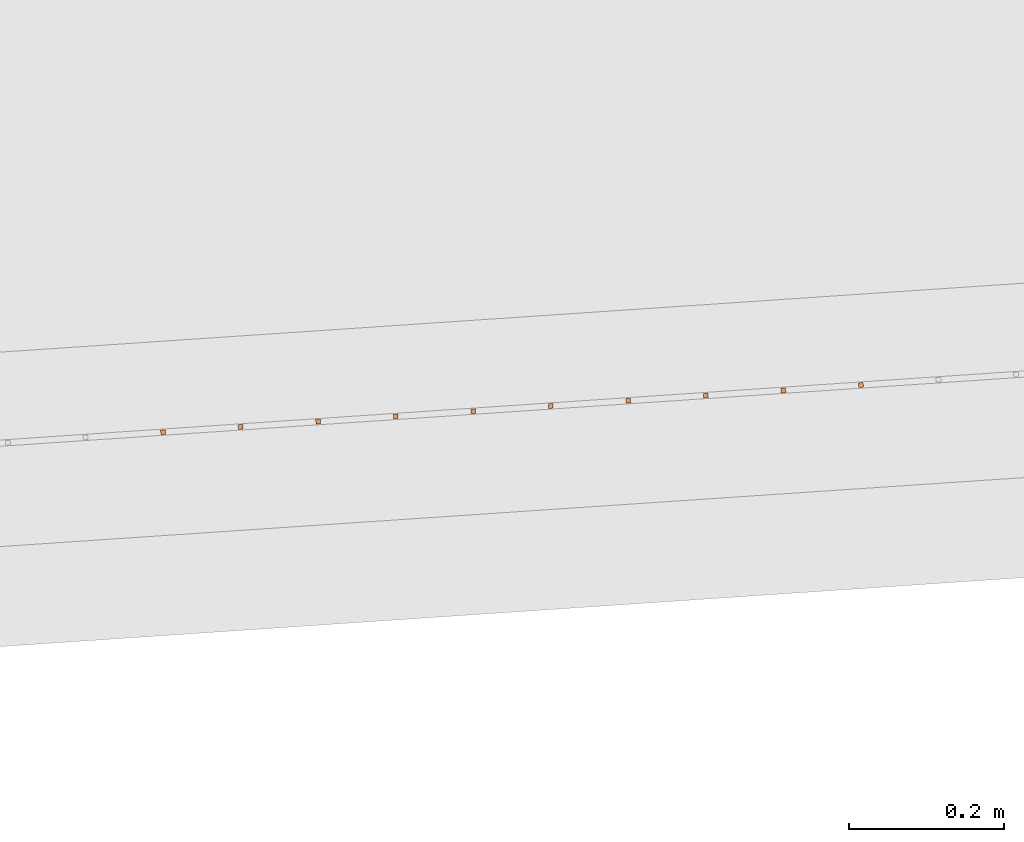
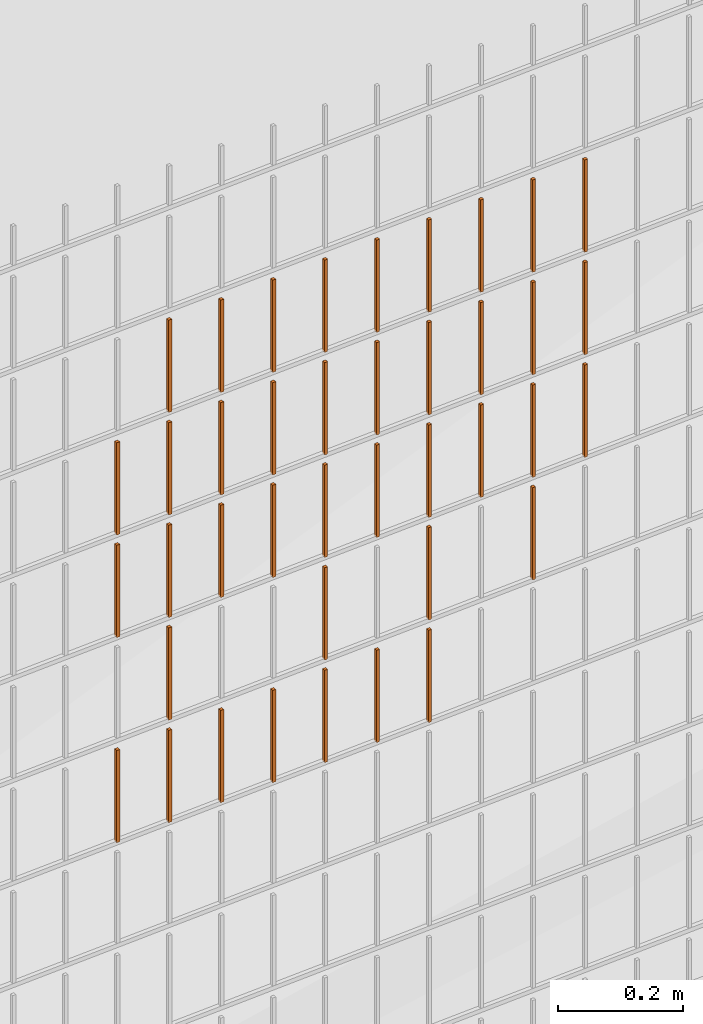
# One storey, part 78 of 1809: 40 proxies, 1 element without a shape of its own.
"""IFC2X3 building model written with IfcOpenShell, lengths in millimetres."""

from ifc_helpers import new_model, entity, si_unit, converted_unit, derived_unit, money_unit, direction, frame, origin_with_axes, place, context, subcontext, project, spatial, faceted_brep, source, transform, mapped, material, type_object, element, aggregate, save


model = new_model("IFC2X3")

# Units and contexts
model_context = context("Model", 3, precision=0.01, world=origin_with_axes(), true_north=direction((0.0, 1.0)))
body_context = subcontext(model_context, "Body", "Model", "MODEL_VIEW")
ifc_project = project(units=[si_unit("LENGTHUNIT", "METRE", prefix="MILLI"), si_unit("AREAUNIT", "SQUARE_METRE"), si_unit("VOLUMEUNIT", "CUBIC_METRE"), converted_unit("PLANEANGLEUNIT", "DEGREE", entity("IfcPlaneAngleMeasure", 0.0174532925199), si_unit("PLANEANGLEUNIT", "RADIAN"), dimensions=[0, 0, 0, 0, 0, 0, 0]), si_unit("SOLIDANGLEUNIT", "STERADIAN"), money_unit("EUR"), converted_unit("TIMEUNIT", "Year", entity("IfcTimeMeasure", 31556926.0), si_unit("TIMEUNIT", "SECOND"), dimensions=[0, 0, 1, 0, 0, 0, 0]), si_unit("MASSUNIT", "GRAM", prefix="KILO"), si_unit("THERMODYNAMICTEMPERATUREUNIT", "DEGREE_CELSIUS"), si_unit("LUMINOUSINTENSITYUNIT", "LUMEN"), si_unit("ENERGYUNIT", "JOULE", prefix="MEGA"), derived_unit("THERMALCONDUCTANCEUNIT", [(si_unit("POWERUNIT", "WATT"), 1), (si_unit("LENGTHUNIT", "METRE"), -1), (si_unit("THERMODYNAMICTEMPERATUREUNIT", "KELVIN"), -1)]), derived_unit("SPECIFICHEATCAPACITYUNIT", [(si_unit("ENERGYUNIT", "JOULE"), 1), (si_unit("MASSUNIT", "GRAM", prefix="KILO"), -1), (si_unit("THERMODYNAMICTEMPERATUREUNIT", "KELVIN"), -1)]), derived_unit("MASSDENSITYUNIT", [(si_unit("MASSUNIT", "GRAM", prefix="KILO"), 1), (si_unit("VOLUMEUNIT", "CUBIC_METRE"), -1)])], contexts=[model_context])

# Site, building, storey
site_placement = place(None, origin_with_axes())
site = spatial("IfcSite", under=ifc_project, at=site_placement, Name="Politse- ja Piirivalveameti ning Päästeameti ühishoone", CompositionType="ELEMENT")
building_placement = place(site_placement, origin_with_axes())
building = spatial("IfcBuilding", under=site, at=building_placement, Name="Politse- ja Piirivalveameti ning Päästeameti ühishoone", CompositionType="ELEMENT")
storey_placement = place(building_placement, origin_with_axes())
storey = spatial("IfcBuildingStorey", under=building, at=storey_placement, Name="Esimene korrus", CompositionType="ELEMENT", Elevation=0.0)

# Proxies
building_element_proxy_type_1 = type_object("IfcBuildingElementProxyType", Name="Railing Type", PredefinedType="NOTDEFINED")
proxy_1_placement = place(storey_placement, frame((89252.001212, -29183.4766571, 203.661247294), z_axis=(0.0, 0.0, 1.0), x_axis=(1.0, 0.0, 0.0)))
proxy_1 = element("IfcBuildingElementProxy", 1, at=proxy_1_placement, inside=storey, type_object=building_element_proxy_type_1, Name="PIIRDEAED")
ifc_material = material(Name="ET-03_Raud")
building_element_proxy_type_2 = type_object("IfcBuildingElementProxyType", Name="IfcBuildingElementProxy", PredefinedType="NOTDEFINED")
shared_shape_1 = source(origin_with_axes(), body_context, "Body", "Brep", [
    faceted_brep([(3.0, 3.0, -0.000752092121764), (-3.0, 3.0, -0.000752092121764), (-3.0, 3.0, 179.99926046), (3.0, 3.0, 179.99926046), (3.0, -3.0, 0.000752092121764), (-3.0, -3.0, 0.000752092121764), (-3.0, -3.0, 180.000764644), (3.0, -3.0, 180.000764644)], [[[0, 1, 2, 3]], [[0, 4, 5, 1]], [[1, 5, 6, 2]], [[3, 2, 6, 7]], [[4, 0, 3, 7]], [[5, 4, 7, 6]]]),
])
proxy_2_placement = place(proxy_1_placement, frame((-103590.641133, -24294.9316332, 801.205307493), z_axis=(0.0, 0.0, 1.0), x_axis=(1.0, 0.0, 0.0)))
proxy_2 = element("IfcBuildingElementProxy", 2, at=proxy_2_placement, type_object=building_element_proxy_type_2, material=ifc_material, Name="BALUSTER - 001", context=body_context, shape_type="MappedRepresentation", body=[
    mapped(shared_shape_1, transform((0.0, 0.0, 0.0), x_axis=(-0.0673926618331, 0.997726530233, 0.0), y_axis=(-0.997726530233, -0.0673926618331, 0.0), z_axis=(0.0, 0.0, 1.0))),
])
proxy_3_placement = place(proxy_1_placement, frame((-103989.731745, -24321.8886979, 801.105028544), z_axis=(0.0, 0.0, 1.0), x_axis=(1.0, 0.0, 0.0)))
proxy_3 = element("IfcBuildingElementProxy", 3, at=proxy_3_placement, type_object=building_element_proxy_type_2, material=ifc_material, Name="BALUSTER - 001", context=body_context, shape_type="MappedRepresentation", body=[
    mapped(shared_shape_1, transform((0.0, 0.0, 0.0), x_axis=(-0.0673926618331, 0.997726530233, 0.0), y_axis=(-0.997726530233, -0.0673926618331, 0.0), z_axis=(0.0, 0.0, 1.0))),
])
proxy_4_placement = place(proxy_1_placement, frame((-103291.323174, -24274.7138346, 1201.28051671), z_axis=(0.0, 0.0, 1.0), x_axis=(1.0, 0.0, 0.0)))
proxy_4 = element("IfcBuildingElementProxy", 4, at=proxy_4_placement, type_object=building_element_proxy_type_2, material=ifc_material, Name="BALUSTER - 001", context=body_context, shape_type="MappedRepresentation", body=[
    mapped(shared_shape_1, transform((0.0, 0.0, 0.0), x_axis=(-0.0673926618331, 0.997726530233, 0.0), y_axis=(-0.997726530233, -0.0673926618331, 0.0), z_axis=(0.0, 0.0, 1.0))),
])
proxy_5_placement = place(proxy_1_placement, frame((-103989.731745, -24321.8886979, 1201.10502854), z_axis=(0.0, 0.0, 1.0), x_axis=(1.0, 0.0, 0.0)))
proxy_5 = element("IfcBuildingElementProxy", 5, at=proxy_5_placement, type_object=building_element_proxy_type_2, material=ifc_material, Name="BALUSTER - 001", context=body_context, shape_type="MappedRepresentation", body=[
    mapped(shared_shape_1, transform((0.0, 0.0, 0.0), x_axis=(-0.0673926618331, 0.997726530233, 0.0), y_axis=(-0.997726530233, -0.0673926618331, 0.0), z_axis=(0.0, 0.0, 1.0))),
])
shared_shape_2 = source(origin_with_axes(), body_context, "Body", "Brep", [
    faceted_brep([(3.0, 3.0, -0.000752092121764), (-3.0, 3.0, -0.000752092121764), (-3.0, 3.0, 179.99926046), (3.0, 3.0, 179.99926046), (3.0, -3.0, 0.000752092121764), (-3.0, -3.0, 0.000752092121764), (-3.0, -3.0, 180.000764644), (3.0, -3.0, 180.000764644)], [[[0, 1, 2, 3]], [[0, 4, 5, 1]], [[1, 5, 6, 2]], [[3, 2, 6, 7]], [[4, 0, 3, 7]], [[5, 4, 7, 6]]]),
])
proxy_6_placement = place(proxy_1_placement, frame((-103291.323174, -24274.7138346, 1401.28051671), z_axis=(0.0, 0.0, 1.0), x_axis=(1.0, 0.0, 0.0)))
proxy_6 = element("IfcBuildingElementProxy", 6, at=proxy_6_placement, type_object=building_element_proxy_type_2, material=ifc_material, Name="BALUSTER - 001", context=body_context, shape_type="MappedRepresentation", body=[
    mapped(shared_shape_2, transform((0.0, 0.0, 0.0), x_axis=(-0.0673926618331, 0.997726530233, 0.0), y_axis=(-0.997726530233, -0.0673926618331, 0.0), z_axis=(0.0, 0.0, 1.0))),
])
proxy_7_placement = place(proxy_1_placement, frame((-103989.731745, -24321.8886979, 1401.10502854), z_axis=(0.0, 0.0, 1.0), x_axis=(1.0, 0.0, 0.0)))
proxy_7 = element("IfcBuildingElementProxy", 7, at=proxy_7_placement, type_object=building_element_proxy_type_2, material=ifc_material, Name="BALUSTER - 001", context=body_context, shape_type="MappedRepresentation", body=[
    mapped(shared_shape_2, transform((0.0, 0.0, 0.0), x_axis=(-0.0673926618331, 0.997726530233, 0.0), y_axis=(-0.997726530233, -0.0673926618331, 0.0), z_axis=(0.0, 0.0, 1.0))),
])
proxy_8_placement = place(proxy_1_placement, frame((-103291.323174, -24274.7138346, 1601.28051671), z_axis=(0.0, 0.0, 1.0), x_axis=(1.0, 0.0, 0.0)))
proxy_8 = element("IfcBuildingElementProxy", 8, at=proxy_8_placement, type_object=building_element_proxy_type_2, material=ifc_material, Name="BALUSTER - 001", context=body_context, shape_type="MappedRepresentation", body=[
    mapped(shared_shape_2, transform((0.0, 0.0, 0.0), x_axis=(-0.0673926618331, 0.997726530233, 0.0), y_axis=(-0.997726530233, -0.0673926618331, 0.0), z_axis=(0.0, 0.0, 1.0))),
])
proxy_9_placement = place(proxy_1_placement, frame((-103989.731745, -24321.8886979, 1601.10502854), z_axis=(0.0, 0.0, 1.0), x_axis=(1.0, 0.0, 0.0)))
proxy_9 = element("IfcBuildingElementProxy", 9, at=proxy_9_placement, type_object=building_element_proxy_type_2, material=ifc_material, Name="BALUSTER - 001", context=body_context, shape_type="MappedRepresentation", body=[
    mapped(shared_shape_2, transform((0.0, 0.0, 0.0), x_axis=(-0.0673926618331, 0.997726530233, 0.0), y_axis=(-0.997726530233, -0.0673926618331, 0.0), z_axis=(0.0, 0.0, 1.0))),
])
shared_shape_3 = source(origin_with_axes(), body_context, "Body", "Brep", [
    faceted_brep([(3.0, 3.0, -0.000752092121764), (-3.0, 3.0, -0.000752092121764), (-3.0, 3.0, 179.99926046), (3.0, 3.0, 179.99926046), (3.0, -3.0, 0.000752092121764), (-3.0, -3.0, 0.000752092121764), (-3.0, -3.0, 180.000764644), (3.0, -3.0, 180.000764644)], [[[0, 1, 2, 3]], [[0, 4, 5, 1]], [[1, 5, 6, 2]], [[3, 2, 6, 7]], [[4, 0, 3, 7]], [[5, 4, 7, 6]]]),
])
proxy_10_placement = place(proxy_1_placement, frame((-103391.095827, -24281.4531008, 1201.25544697), z_axis=(0.0, 0.0, 1.0), x_axis=(1.0, 0.0, 0.0)))
proxy_10 = element("IfcBuildingElementProxy", 10, at=proxy_10_placement, type_object=building_element_proxy_type_2, material=ifc_material, Name="BALUSTER - 001", context=body_context, shape_type="MappedRepresentation", body=[
    mapped(shared_shape_3, transform((0.0, 0.0, 0.0), x_axis=(-0.0673926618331, 0.997726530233, 0.0), y_axis=(-0.997726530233, -0.0673926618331, 0.0), z_axis=(0.0, 0.0, 1.0))),
])
proxy_11_placement = place(proxy_1_placement, frame((-103889.959092, -24315.1494317, 1201.13009828), z_axis=(0.0, 0.0, 1.0), x_axis=(1.0, 0.0, 0.0)))
proxy_11 = element("IfcBuildingElementProxy", 11, at=proxy_11_placement, type_object=building_element_proxy_type_2, material=ifc_material, Name="BALUSTER - 001", context=body_context, shape_type="MappedRepresentation", body=[
    mapped(shared_shape_3, transform((0.0, 0.0, 0.0), x_axis=(-0.0673926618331, 0.997726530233, 0.0), y_axis=(-0.997726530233, -0.0673926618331, 0.0), z_axis=(0.0, 0.0, 1.0))),
])
shared_shape_4 = source(origin_with_axes(), body_context, "Body", "Brep", [
    faceted_brep([(3.0, 3.0, -0.000752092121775), (-3.0, 3.0, -0.000752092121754), (-3.0, 3.0, 179.99926046), (3.0, 3.0, 179.99926046), (3.0, -3.0, 0.000752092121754), (-3.0, -3.0, 0.000752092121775), (-3.0, -3.0, 180.000764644), (3.0, -3.0, 180.000764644)], [[[0, 1, 2, 3]], [[0, 4, 5, 1]], [[1, 5, 6, 2]], [[3, 2, 6, 7]], [[4, 0, 3, 7]], [[5, 4, 7, 6]]]),
])
proxy_12_placement = place(proxy_1_placement, frame((-104089.504398, -24328.6279641, 1201.07995881), z_axis=(0.0, 0.0, 1.0), x_axis=(1.0, 0.0, 0.0)))
proxy_12 = element("IfcBuildingElementProxy", 12, at=proxy_12_placement, type_object=building_element_proxy_type_2, material=ifc_material, Name="BALUSTER - 001", context=body_context, shape_type="MappedRepresentation", body=[
    mapped(shared_shape_4, transform((0.0, 0.0, 0.0), x_axis=(-0.0673926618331, 0.997726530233, 0.0), y_axis=(-0.997726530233, -0.0673926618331, 0.0), z_axis=(0.0, 0.0, 1.0))),
])
shared_shape_5 = source(origin_with_axes(), body_context, "Body", "Brep", [
    faceted_brep([(3.0, 3.0, -0.000752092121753), (-3.0, 3.0, -0.000752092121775), (-3.0, 3.0, 179.99926046), (3.0, 3.0, 179.99926046), (3.0, -3.0, 0.000752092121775), (-3.0, -3.0, 0.000752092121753), (-3.0, -3.0, 180.000764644), (3.0, -3.0, 180.000764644)], [[[0, 1, 2, 3]], [[0, 4, 5, 1]], [[1, 5, 6, 2]], [[3, 2, 6, 7]], [[4, 0, 3, 7]], [[5, 4, 7, 6]]]),
])
proxy_13_placement = place(proxy_1_placement, frame((-103690.413786, -24301.6708994, 801.180237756), z_axis=(0.0, 0.0, 1.0), x_axis=(1.0, 0.0, 0.0)))
proxy_13 = element("IfcBuildingElementProxy", 13, at=proxy_13_placement, type_object=building_element_proxy_type_2, material=ifc_material, Name="BALUSTER - 001", context=body_context, shape_type="MappedRepresentation", body=[
    mapped(shared_shape_5, transform((0.0, 0.0, 0.0), x_axis=(-0.0673926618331, 0.997726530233, 0.0), y_axis=(-0.997726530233, -0.0673926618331, 0.0), z_axis=(0.0, 0.0, 1.0))),
])
proxy_14_placement = place(proxy_1_placement, frame((-103690.413786, -24301.6708994, 1201.18023776), z_axis=(0.0, 0.0, 1.0), x_axis=(1.0, 0.0, 0.0)))
proxy_14 = element("IfcBuildingElementProxy", 14, at=proxy_14_placement, type_object=building_element_proxy_type_2, material=ifc_material, Name="BALUSTER - 001", context=body_context, shape_type="MappedRepresentation", body=[
    mapped(shared_shape_5, transform((0.0, 0.0, 0.0), x_axis=(-0.0673926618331, 0.997726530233, 0.0), y_axis=(-0.997726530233, -0.0673926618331, 0.0), z_axis=(0.0, 0.0, 1.0))),
])
shared_shape_6 = source(origin_with_axes(), body_context, "Body", "Brep", [
    faceted_brep([(3.0, 3.0, -0.000752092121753), (-3.0, 3.0, -0.000752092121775), (-3.0, 3.0, 179.99926046), (3.0, 3.0, 179.99926046), (3.0, -3.0, 0.000752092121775), (-3.0, -3.0, 0.000752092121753), (-3.0, -3.0, 180.000764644), (3.0, -3.0, 180.000764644)], [[[0, 1, 2, 3]], [[0, 4, 5, 1]], [[1, 5, 6, 2]], [[3, 2, 6, 7]], [[4, 0, 3, 7]], [[5, 4, 7, 6]]]),
])
proxy_15_placement = place(proxy_1_placement, frame((-103889.959092, -24315.1494317, 801.130098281), z_axis=(0.0, 0.0, 1.0), x_axis=(1.0, 0.0, 0.0)))
proxy_15 = element("IfcBuildingElementProxy", 15, at=proxy_15_placement, type_object=building_element_proxy_type_2, material=ifc_material, Name="BALUSTER - 001", context=body_context, shape_type="MappedRepresentation", body=[
    mapped(shared_shape_6, transform((0.0, 0.0, 0.0), x_axis=(-0.0673926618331, 0.997726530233, 0.0), y_axis=(-0.997726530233, -0.0673926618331, 0.0), z_axis=(0.0, 0.0, 1.0))),
])
proxy_16_placement = place(proxy_1_placement, frame((-103191.550521, -24267.9745685, 1201.30558644), z_axis=(0.0, 0.0, 1.0), x_axis=(1.0, 0.0, 0.0)))
proxy_16 = element("IfcBuildingElementProxy", 16, at=proxy_16_placement, type_object=building_element_proxy_type_2, material=ifc_material, Name="BALUSTER - 001", context=body_context, shape_type="MappedRepresentation", body=[
    mapped(shared_shape_6, transform((0.0, 0.0, 0.0), x_axis=(-0.0673926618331, 0.997726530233, 0.0), y_axis=(-0.997726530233, -0.0673926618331, 0.0), z_axis=(0.0, 0.0, 1.0))),
])
proxy_17_placement = place(proxy_1_placement, frame((-103490.86848, -24288.192367, 1201.23037723), z_axis=(0.0, 0.0, 1.0), x_axis=(1.0, 0.0, 0.0)))
proxy_17 = element("IfcBuildingElementProxy", 17, at=proxy_17_placement, type_object=building_element_proxy_type_2, material=ifc_material, Name="BALUSTER - 001", context=body_context, shape_type="MappedRepresentation", body=[
    mapped(shared_shape_6, transform((0.0, 0.0, 0.0), x_axis=(-0.0673926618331, 0.997726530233, 0.0), y_axis=(-0.997726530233, -0.0673926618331, 0.0), z_axis=(0.0, 0.0, 1.0))),
])
shared_shape_7 = source(origin_with_axes(), body_context, "Body", "Brep", [
    faceted_brep([(3.0, 3.0, -0.000752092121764), (-3.0, 3.0, -0.000752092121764), (-3.0, 3.0, 179.99926046), (3.0, 3.0, 179.99926046), (3.0, -3.0, 0.000752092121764), (-3.0, -3.0, 0.000752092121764), (-3.0, -3.0, 180.000764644), (3.0, -3.0, 180.000764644)], [[[0, 1, 2, 3]], [[0, 4, 5, 1]], [[1, 5, 6, 2]], [[3, 2, 6, 7]], [[4, 0, 3, 7]], [[5, 4, 7, 6]]]),
])
proxy_18_placement = place(proxy_1_placement, frame((-103391.095827, -24281.4531008, 1401.25544697), z_axis=(0.0, 0.0, 1.0), x_axis=(1.0, 0.0, 0.0)))
proxy_18 = element("IfcBuildingElementProxy", 18, at=proxy_18_placement, type_object=building_element_proxy_type_2, material=ifc_material, Name="BALUSTER - 001", context=body_context, shape_type="MappedRepresentation", body=[
    mapped(shared_shape_7, transform((0.0, 0.0, 0.0), x_axis=(-0.0673926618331, 0.997726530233, 0.0), y_axis=(-0.997726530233, -0.0673926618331, 0.0), z_axis=(0.0, 0.0, 1.0))),
])
proxy_19_placement = place(proxy_1_placement, frame((-103889.959092, -24315.1494317, 1401.13009828), z_axis=(0.0, 0.0, 1.0), x_axis=(1.0, 0.0, 0.0)))
proxy_19 = element("IfcBuildingElementProxy", 19, at=proxy_19_placement, type_object=building_element_proxy_type_2, material=ifc_material, Name="BALUSTER - 001", context=body_context, shape_type="MappedRepresentation", body=[
    mapped(shared_shape_7, transform((0.0, 0.0, 0.0), x_axis=(-0.0673926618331, 0.997726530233, 0.0), y_axis=(-0.997726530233, -0.0673926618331, 0.0), z_axis=(0.0, 0.0, 1.0))),
])
proxy_20_placement = place(proxy_1_placement, frame((-103391.095827, -24281.4531008, 1601.25544697), z_axis=(0.0, 0.0, 1.0), x_axis=(1.0, 0.0, 0.0)))
proxy_20 = element("IfcBuildingElementProxy", 20, at=proxy_20_placement, type_object=building_element_proxy_type_2, material=ifc_material, Name="BALUSTER - 001", context=body_context, shape_type="MappedRepresentation", body=[
    mapped(shared_shape_7, transform((0.0, 0.0, 0.0), x_axis=(-0.0673926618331, 0.997726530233, 0.0), y_axis=(-0.997726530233, -0.0673926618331, 0.0), z_axis=(0.0, 0.0, 1.0))),
])
proxy_21_placement = place(proxy_1_placement, frame((-103889.959092, -24315.1494317, 1601.13009828), z_axis=(0.0, 0.0, 1.0), x_axis=(1.0, 0.0, 0.0)))
proxy_21 = element("IfcBuildingElementProxy", 21, at=proxy_21_placement, type_object=building_element_proxy_type_2, material=ifc_material, Name="BALUSTER - 001", context=body_context, shape_type="MappedRepresentation", body=[
    mapped(shared_shape_7, transform((0.0, 0.0, 0.0), x_axis=(-0.0673926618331, 0.997726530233, 0.0), y_axis=(-0.997726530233, -0.0673926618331, 0.0), z_axis=(0.0, 0.0, 1.0))),
])
shared_shape_8 = source(origin_with_axes(), body_context, "Body", "Brep", [
    faceted_brep([(3.0, 3.0, -0.000752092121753), (-3.0, 3.0, -0.000752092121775), (-3.0, 3.0, 179.99926046), (3.0, 3.0, 179.99926046), (3.0, -3.0, 0.000752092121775), (-3.0, -3.0, 0.000752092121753), (-3.0, -3.0, 180.000764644), (3.0, -3.0, 180.000764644)], [[[0, 1, 2, 3]], [[0, 4, 5, 1]], [[1, 5, 6, 2]], [[3, 2, 6, 7]], [[4, 0, 3, 7]], [[5, 4, 7, 6]]]),
])
proxy_22_placement = place(proxy_1_placement, frame((-103690.413786, -24301.6708994, 1401.18023776), z_axis=(0.0, 0.0, 1.0), x_axis=(1.0, 0.0, 0.0)))
proxy_22 = element("IfcBuildingElementProxy", 22, at=proxy_22_placement, type_object=building_element_proxy_type_2, material=ifc_material, Name="BALUSTER - 001", context=body_context, shape_type="MappedRepresentation", body=[
    mapped(shared_shape_8, transform((0.0, 0.0, 0.0), x_axis=(-0.0673926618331, 0.997726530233, 0.0), y_axis=(-0.997726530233, -0.0673926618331, 0.0), z_axis=(0.0, 0.0, 1.0))),
])
proxy_23_placement = place(proxy_1_placement, frame((-103690.413786, -24301.6708994, 1601.18023776), z_axis=(0.0, 0.0, 1.0), x_axis=(1.0, 0.0, 0.0)))
proxy_23 = element("IfcBuildingElementProxy", 23, at=proxy_23_placement, type_object=building_element_proxy_type_2, material=ifc_material, Name="BALUSTER - 001", context=body_context, shape_type="MappedRepresentation", body=[
    mapped(shared_shape_8, transform((0.0, 0.0, 0.0), x_axis=(-0.0673926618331, 0.997726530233, 0.0), y_axis=(-0.997726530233, -0.0673926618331, 0.0), z_axis=(0.0, 0.0, 1.0))),
])
shared_shape_9 = source(origin_with_axes(), body_context, "Body", "Brep", [
    faceted_brep([(3.0, 3.0, -0.000752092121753), (-3.0, 3.0, -0.000752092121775), (-3.0, 3.0, 179.99926046), (3.0, 3.0, 179.99926046), (3.0, -3.0, 0.000752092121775), (-3.0, -3.0, 0.000752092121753), (-3.0, -3.0, 180.000764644), (3.0, -3.0, 180.000764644)], [[[0, 1, 2, 3]], [[0, 4, 5, 1]], [[1, 5, 6, 2]], [[3, 2, 6, 7]], [[4, 0, 3, 7]], [[5, 4, 7, 6]]]),
])
proxy_24_placement = place(proxy_1_placement, frame((-103191.550521, -24267.9745685, 1401.30558644), z_axis=(0.0, 0.0, 1.0), x_axis=(1.0, 0.0, 0.0)))
proxy_24 = element("IfcBuildingElementProxy", 24, at=proxy_24_placement, type_object=building_element_proxy_type_2, material=ifc_material, Name="BALUSTER - 001", context=body_context, shape_type="MappedRepresentation", body=[
    mapped(shared_shape_9, transform((0.0, 0.0, 0.0), x_axis=(-0.0673926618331, 0.997726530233, 0.0), y_axis=(-0.997726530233, -0.0673926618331, 0.0), z_axis=(0.0, 0.0, 1.0))),
])
proxy_25_placement = place(proxy_1_placement, frame((-103490.86848, -24288.192367, 1401.23037723), z_axis=(0.0, 0.0, 1.0), x_axis=(1.0, 0.0, 0.0)))
proxy_25 = element("IfcBuildingElementProxy", 25, at=proxy_25_placement, type_object=building_element_proxy_type_2, material=ifc_material, Name="BALUSTER - 001", context=body_context, shape_type="MappedRepresentation", body=[
    mapped(shared_shape_9, transform((0.0, 0.0, 0.0), x_axis=(-0.0673926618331, 0.997726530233, 0.0), y_axis=(-0.997726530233, -0.0673926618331, 0.0), z_axis=(0.0, 0.0, 1.0))),
])
proxy_26_placement = place(proxy_1_placement, frame((-103191.550521, -24267.9745685, 1601.30558644), z_axis=(0.0, 0.0, 1.0), x_axis=(1.0, 0.0, 0.0)))
proxy_26 = element("IfcBuildingElementProxy", 26, at=proxy_26_placement, type_object=building_element_proxy_type_2, material=ifc_material, Name="BALUSTER - 001", context=body_context, shape_type="MappedRepresentation", body=[
    mapped(shared_shape_9, transform((0.0, 0.0, 0.0), x_axis=(-0.0673926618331, 0.997726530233, 0.0), y_axis=(-0.997726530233, -0.0673926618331, 0.0), z_axis=(0.0, 0.0, 1.0))),
])
proxy_27_placement = place(proxy_1_placement, frame((-103490.86848, -24288.192367, 1601.23037723), z_axis=(0.0, 0.0, 1.0), x_axis=(1.0, 0.0, 0.0)))
proxy_27 = element("IfcBuildingElementProxy", 27, at=proxy_27_placement, type_object=building_element_proxy_type_2, material=ifc_material, Name="BALUSTER - 001", context=body_context, shape_type="MappedRepresentation", body=[
    mapped(shared_shape_9, transform((0.0, 0.0, 0.0), x_axis=(-0.0673926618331, 0.997726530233, 0.0), y_axis=(-0.997726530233, -0.0673926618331, 0.0), z_axis=(0.0, 0.0, 1.0))),
])
shared_shape_10 = source(origin_with_axes(), body_context, "Body", "Brep", [
    faceted_brep([(3.0, 3.0, -0.000752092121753), (-3.0, 3.0, -0.000752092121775), (-3.0, 3.0, 179.99926046), (3.0, 3.0, 179.99926046), (3.0, -3.0, 0.000752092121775), (-3.0, -3.0, 0.000752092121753), (-3.0, -3.0, 180.000764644), (3.0, -3.0, 180.000764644)], [[[0, 1, 2, 3]], [[0, 4, 5, 1]], [[1, 5, 6, 2]], [[3, 2, 6, 7]], [[4, 0, 3, 7]], [[5, 4, 7, 6]]]),
])
proxy_28_placement = place(proxy_1_placement, frame((-103790.186439, -24308.4101656, 801.155168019), z_axis=(0.0, 0.0, 1.0), x_axis=(1.0, 0.0, 0.0)))
proxy_28 = element("IfcBuildingElementProxy", 28, at=proxy_28_placement, type_object=building_element_proxy_type_2, material=ifc_material, Name="BALUSTER - 001", context=body_context, shape_type="MappedRepresentation", body=[
    mapped(shared_shape_10, transform((0.0, 0.0, 0.0), x_axis=(-0.0673926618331, 0.997726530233, 0.0), y_axis=(-0.997726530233, -0.0673926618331, 0.0), z_axis=(0.0, 0.0, 1.0))),
])
shared_shape_11 = source(origin_with_axes(), body_context, "Body", "Brep", [
    faceted_brep([(3.0, 3.0, -0.000752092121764), (-3.0, 3.0, -0.000752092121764), (-3.0, 3.0, 179.99926046), (3.0, 3.0, 179.99926046), (3.0, -3.0, 0.000752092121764), (-3.0, -3.0, 0.000752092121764), (-3.0, -3.0, 180.000764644), (3.0, -3.0, 180.000764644)], [[[0, 1, 2, 3]], [[0, 4, 5, 1]], [[1, 5, 6, 2]], [[3, 2, 6, 7]], [[4, 0, 3, 7]], [[5, 4, 7, 6]]]),
])
proxy_29_placement = place(proxy_1_placement, frame((-103790.186439, -24308.4101656, 1201.15516802), z_axis=(0.0, 0.0, 1.0), x_axis=(1.0, 0.0, 0.0)))
proxy_29 = element("IfcBuildingElementProxy", 29, at=proxy_29_placement, type_object=building_element_proxy_type_2, material=ifc_material, Name="BALUSTER - 001", context=body_context, shape_type="MappedRepresentation", body=[
    mapped(shared_shape_11, transform((0.0, 0.0, 0.0), x_axis=(-0.0673926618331, 0.997726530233, 0.0), y_axis=(-0.997726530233, -0.0673926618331, 0.0), z_axis=(0.0, 0.0, 1.0))),
])
shared_shape_12 = source(origin_with_axes(), body_context, "Body", "Brep", [
    faceted_brep([(3.0, 3.0, -0.000752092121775), (-3.0, 3.0, -0.000752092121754), (-3.0, 3.0, 179.99926046), (3.0, 3.0, 179.99926046), (3.0, -3.0, 0.000752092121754), (-3.0, -3.0, 0.000752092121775), (-3.0, -3.0, 180.000764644), (3.0, -3.0, 180.000764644)], [[[0, 1, 2, 3]], [[0, 4, 5, 1]], [[1, 5, 6, 2]], [[3, 2, 6, 7]], [[4, 0, 3, 7]], [[5, 4, 7, 6]]]),
])
proxy_30_placement = place(proxy_1_placement, frame((-104089.504398, -24328.6279641, 1401.07995881), z_axis=(0.0, 0.0, 1.0), x_axis=(1.0, 0.0, 0.0)))
proxy_30 = element("IfcBuildingElementProxy", 30, at=proxy_30_placement, type_object=building_element_proxy_type_2, material=ifc_material, Name="BALUSTER - 001", context=body_context, shape_type="MappedRepresentation", body=[
    mapped(shared_shape_12, transform((0.0, 0.0, 0.0), x_axis=(-0.0673926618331, 0.997726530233, 0.0), y_axis=(-0.997726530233, -0.0673926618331, 0.0), z_axis=(0.0, 0.0, 1.0))),
])
shared_shape_13 = source(origin_with_axes(), body_context, "Body", "Brep", [
    faceted_brep([(3.0, 3.0, -0.000752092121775), (-3.0, 3.0, -0.000752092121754), (-3.0, 3.0, 179.99926046), (3.0, 3.0, 179.99926046), (3.0, -3.0, 0.000752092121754), (-3.0, -3.0, 0.000752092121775), (-3.0, -3.0, 180.000764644), (3.0, -3.0, 180.000764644)], [[[0, 1, 2, 3]], [[0, 4, 5, 1]], [[1, 5, 6, 2]], [[3, 2, 6, 7]], [[4, 0, 3, 7]], [[5, 4, 7, 6]]]),
])
proxy_31_placement = place(proxy_1_placement, frame((-103490.86848, -24288.192367, 801.230377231), z_axis=(0.0, 0.0, 1.0), x_axis=(1.0, 0.0, 0.0)))
proxy_31 = element("IfcBuildingElementProxy", 31, at=proxy_31_placement, type_object=building_element_proxy_type_2, material=ifc_material, Name="BALUSTER - 001", context=body_context, shape_type="MappedRepresentation", body=[
    mapped(shared_shape_13, transform((0.0, 0.0, 0.0), x_axis=(-0.0673926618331, 0.997726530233, 0.0), y_axis=(-0.997726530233, -0.0673926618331, 0.0), z_axis=(0.0, 0.0, 1.0))),
])
proxy_32_placement = place(proxy_1_placement, frame((-104089.504398, -24328.6279641, 801.079958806), z_axis=(0.0, 0.0, 1.0), x_axis=(1.0, 0.0, 0.0)))
proxy_32 = element("IfcBuildingElementProxy", 32, at=proxy_32_placement, type_object=building_element_proxy_type_2, material=ifc_material, Name="BALUSTER - 001", context=body_context, shape_type="MappedRepresentation", body=[
    mapped(shared_shape_13, transform((0.0, 0.0, 0.0), x_axis=(-0.0673926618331, 0.997726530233, 0.0), y_axis=(-0.997726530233, -0.0673926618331, 0.0), z_axis=(0.0, 0.0, 1.0))),
])
shared_shape_14 = source(origin_with_axes(), body_context, "Body", "Brep", [
    faceted_brep([(3.0, 3.0, -0.000752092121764), (-3.0, 3.0, -0.000752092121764), (-3.0, 3.0, 179.99926046), (3.0, 3.0, 179.99926046), (3.0, -3.0, 0.000752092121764), (-3.0, -3.0, 0.000752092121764), (-3.0, -3.0, 180.000764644), (3.0, -3.0, 180.000764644)], [[[0, 1, 2, 3]], [[0, 4, 5, 1]], [[1, 5, 6, 2]], [[3, 2, 6, 7]], [[4, 0, 3, 7]], [[5, 4, 7, 6]]]),
])
proxy_33_placement = place(proxy_1_placement, frame((-103790.186439, -24308.4101656, 1401.15516802), z_axis=(0.0, 0.0, 1.0), x_axis=(1.0, 0.0, 0.0)))
proxy_33 = element("IfcBuildingElementProxy", 33, at=proxy_33_placement, type_object=building_element_proxy_type_2, material=ifc_material, Name="BALUSTER - 001", context=body_context, shape_type="MappedRepresentation", body=[
    mapped(shared_shape_14, transform((0.0, 0.0, 0.0), x_axis=(-0.0673926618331, 0.997726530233, 0.0), y_axis=(-0.997726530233, -0.0673926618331, 0.0), z_axis=(0.0, 0.0, 1.0))),
])
proxy_34_placement = place(proxy_1_placement, frame((-103790.186439, -24308.4101656, 1601.15516802), z_axis=(0.0, 0.0, 1.0), x_axis=(1.0, 0.0, 0.0)))
proxy_34 = element("IfcBuildingElementProxy", 34, at=proxy_34_placement, type_object=building_element_proxy_type_2, material=ifc_material, Name="BALUSTER - 001", context=body_context, shape_type="MappedRepresentation", body=[
    mapped(shared_shape_14, transform((0.0, 0.0, 0.0), x_axis=(-0.0673926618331, 0.997726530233, 0.0), y_axis=(-0.997726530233, -0.0673926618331, 0.0), z_axis=(0.0, 0.0, 1.0))),
])
shared_shape_15 = source(origin_with_axes(), body_context, "Body", "Brep", [
    faceted_brep([(3.0, 3.0, -0.000752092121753), (-3.0, 3.0, -0.000752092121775), (-3.0, 3.0, 179.99926046), (3.0, 3.0, 179.99926046), (3.0, -3.0, 0.000752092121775), (-3.0, -3.0, 0.000752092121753), (-3.0, -3.0, 180.000764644), (3.0, -3.0, 180.000764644)], [[[0, 1, 2, 3]], [[0, 4, 5, 1]], [[1, 5, 6, 2]], [[3, 2, 6, 7]], [[4, 0, 3, 7]], [[5, 4, 7, 6]]]),
])
proxy_35_placement = place(proxy_1_placement, frame((-103590.641133, -24294.9316332, 1201.20530749), z_axis=(0.0, 0.0, 1.0), x_axis=(1.0, 0.0, 0.0)))
proxy_35 = element("IfcBuildingElementProxy", 35, at=proxy_35_placement, type_object=building_element_proxy_type_2, material=ifc_material, Name="BALUSTER - 001", context=body_context, shape_type="MappedRepresentation", body=[
    mapped(shared_shape_15, transform((0.0, 0.0, 0.0), x_axis=(-0.0673926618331, 0.997726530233, 0.0), y_axis=(-0.997726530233, -0.0673926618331, 0.0), z_axis=(0.0, 0.0, 1.0))),
])
shared_shape_16 = source(origin_with_axes(), body_context, "Body", "Brep", [
    faceted_brep([(3.0, 3.0, -0.000752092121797), (-3.0, 3.0, -0.000752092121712), (-3.0, 3.00000000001, 179.99926046), (3.0, 3.00000000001, 179.99926046), (3.0, -3.0, 0.000752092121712), (-3.0, -3.0, 0.000752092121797), (-3.0, -2.99999999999, 180.000764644), (3.0, -2.99999999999, 180.000764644)], [[[0, 1, 2, 3]], [[0, 4, 5, 1]], [[1, 5, 6, 2]], [[3, 2, 6, 7]], [[4, 0, 3, 7]], [[5, 4, 7, 6]]]),
])
proxy_36_placement = place(proxy_1_placement, frame((-103291.323174, -24274.7138346, 1001.28051671), z_axis=(0.0, 0.0, 1.0), x_axis=(1.0, 0.0, 0.0)))
proxy_36 = element("IfcBuildingElementProxy", 36, at=proxy_36_placement, type_object=building_element_proxy_type_2, material=ifc_material, Name="BALUSTER - 001", context=body_context, shape_type="MappedRepresentation", body=[
    mapped(shared_shape_16, transform((0.0, 0.0, 0.0), x_axis=(-0.0673926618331, 0.997726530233, 0.0), y_axis=(-0.997726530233, -0.0673926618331, 0.0), z_axis=(0.0, 0.0, 1.0))),
])
shared_shape_17 = source(origin_with_axes(), body_context, "Body", "Brep", [
    faceted_brep([(3.0, 3.0, -0.000752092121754), (-3.0, 3.0, -0.000752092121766), (-3.00000000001, 3.00000000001, 179.99926046), (2.99999999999, 3.00000000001, 179.99926046), (3.0, -3.0, 0.000752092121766), (-3.0, -3.0, 0.000752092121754), (-3.00000000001, -2.99999999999, 180.000764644), (2.99999999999, -2.99999999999, 180.000764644)], [[[0, 1, 2, 3]], [[0, 4, 5, 1]], [[1, 5, 6, 2]], [[3, 2, 6, 7]], [[4, 0, 3, 7]], [[5, 4, 7, 6]]]),
])
proxy_37_placement = place(proxy_1_placement, frame((-103989.731745, -24321.8886979, 1001.10502854), z_axis=(0.0, 0.0, 1.0), x_axis=(1.0, 0.0, 0.0)))
proxy_37 = element("IfcBuildingElementProxy", 37, at=proxy_37_placement, type_object=building_element_proxy_type_2, material=ifc_material, Name="BALUSTER - 001", context=body_context, shape_type="MappedRepresentation", body=[
    mapped(shared_shape_17, transform((0.0, 0.0, 0.0), x_axis=(-0.0673926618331, 0.997726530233, 0.0), y_axis=(-0.997726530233, -0.0673926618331, 0.0), z_axis=(0.0, 0.0, 1.0))),
])
shared_shape_18 = source(origin_with_axes(), body_context, "Body", "Brep", [
    faceted_brep([(3.0, 3.0, -0.000752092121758), (-3.0, 3.0, -0.00075209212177), (-3.00000000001, 3.0, 179.99926046), (2.99999999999, 3.0, 179.99926046), (3.0, -3.0, 0.00075209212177), (-3.0, -3.0, 0.000752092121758), (-3.00000000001, -3.0, 180.000764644), (2.99999999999, -3.0, 180.000764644)], [[[0, 1, 2, 3]], [[0, 4, 5, 1]], [[1, 5, 6, 2]], [[3, 2, 6, 7]], [[4, 0, 3, 7]], [[5, 4, 7, 6]]]),
])
proxy_38_placement = place(proxy_1_placement, frame((-103690.413786, -24301.6708994, 1001.18023776), z_axis=(0.0, 0.0, 1.0), x_axis=(1.0, 0.0, 0.0)))
proxy_38 = element("IfcBuildingElementProxy", 38, at=proxy_38_placement, type_object=building_element_proxy_type_2, material=ifc_material, Name="BALUSTER - 001", context=body_context, shape_type="MappedRepresentation", body=[
    mapped(shared_shape_18, transform((0.0, 0.0, 0.0), x_axis=(-0.0673926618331, 0.997726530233, 0.0), y_axis=(-0.997726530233, -0.0673926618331, 0.0), z_axis=(0.0, 0.0, 1.0))),
])
shared_shape_19 = source(origin_with_axes(), body_context, "Body", "Brep", [
    faceted_brep([(3.0, 3.0, -0.000752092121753), (-3.0, 3.0, -0.000752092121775), (-3.0, 3.0, 179.99926046), (3.0, 3.0, 179.99926046), (3.0, -3.0, 0.000752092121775), (-3.0, -3.0, 0.000752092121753), (-3.0, -3.0, 180.000764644), (3.0, -3.0, 180.000764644)], [[[0, 1, 2, 3]], [[0, 4, 5, 1]], [[1, 5, 6, 2]], [[3, 2, 6, 7]], [[4, 0, 3, 7]], [[5, 4, 7, 6]]]),
])
proxy_39_placement = place(proxy_1_placement, frame((-103590.641133, -24294.9316332, 1401.20530749), z_axis=(0.0, 0.0, 1.0), x_axis=(1.0, 0.0, 0.0)))
proxy_39 = element("IfcBuildingElementProxy", 39, at=proxy_39_placement, type_object=building_element_proxy_type_2, material=ifc_material, Name="BALUSTER - 001", context=body_context, shape_type="MappedRepresentation", body=[
    mapped(shared_shape_19, transform((0.0, 0.0, 0.0), x_axis=(-0.0673926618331, 0.997726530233, 0.0), y_axis=(-0.997726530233, -0.0673926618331, 0.0), z_axis=(0.0, 0.0, 1.0))),
])
proxy_40_placement = place(proxy_1_placement, frame((-103590.641133, -24294.9316332, 1601.20530749), z_axis=(0.0, 0.0, 1.0), x_axis=(1.0, 0.0, 0.0)))
proxy_40 = element("IfcBuildingElementProxy", 40, at=proxy_40_placement, type_object=building_element_proxy_type_2, material=ifc_material, Name="BALUSTER - 001", context=body_context, shape_type="MappedRepresentation", body=[
    mapped(shared_shape_19, transform((0.0, 0.0, 0.0), x_axis=(-0.0673926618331, 0.997726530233, 0.0), y_axis=(-0.997726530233, -0.0673926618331, 0.0), z_axis=(0.0, 0.0, 1.0))),
])
shared_shape_20 = source(origin_with_axes(), body_context, "Body", "Brep", [
    faceted_brep([(3.0, 3.0, -0.000752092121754), (-3.0, 3.0, -0.000752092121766), (-3.00000000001, 3.00000000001, 179.99926046), (2.99999999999, 3.00000000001, 179.99926046), (3.0, -3.0, 0.000752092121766), (-3.0, -3.0, 0.000752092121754), (-3.00000000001, -2.99999999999, 180.000764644), (2.99999999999, -2.99999999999, 180.000764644)], [[[0, 1, 2, 3]], [[0, 4, 5, 1]], [[1, 5, 6, 2]], [[3, 2, 6, 7]], [[4, 0, 3, 7]], [[5, 4, 7, 6]]]),
])
proxy_41_placement = place(proxy_1_placement, frame((-103490.86848, -24288.192367, 1001.23037723), z_axis=(0.0, 0.0, 1.0), x_axis=(1.0, 0.0, 0.0)))
proxy_41 = element("IfcBuildingElementProxy", 41, at=proxy_41_placement, type_object=building_element_proxy_type_2, material=ifc_material, Name="BALUSTER - 001", context=body_context, shape_type="MappedRepresentation", body=[
    mapped(shared_shape_20, transform((0.0, 0.0, 0.0), x_axis=(-0.0673926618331, 0.997726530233, 0.0), y_axis=(-0.997726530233, -0.0673926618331, 0.0), z_axis=(0.0, 0.0, 1.0))),
])
aggregate(proxy_1, [proxy_31, proxy_2, proxy_13, proxy_28, proxy_15, proxy_3, proxy_32, proxy_36, proxy_41, proxy_38, proxy_37, proxy_16, proxy_4, proxy_10, proxy_17, proxy_35, proxy_14, proxy_29, proxy_11, proxy_5, proxy_12, proxy_24, proxy_6, proxy_18, proxy_25, proxy_39, proxy_22, proxy_33, proxy_19, proxy_7, proxy_30, proxy_26, proxy_8, proxy_20, proxy_27, proxy_40, proxy_23, proxy_34, proxy_21, proxy_9])

save(model, "model.ifc")
